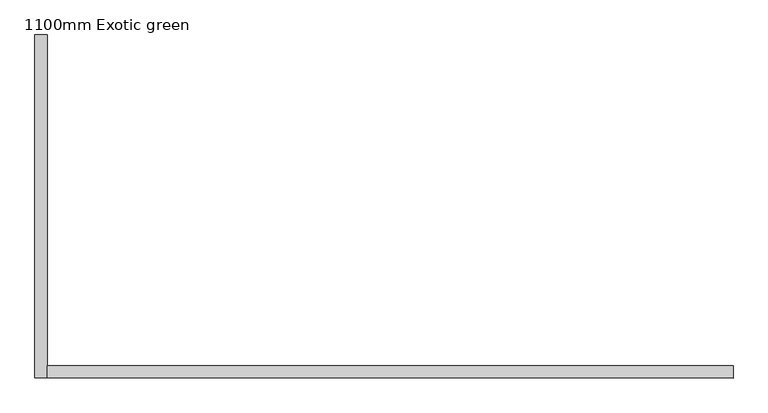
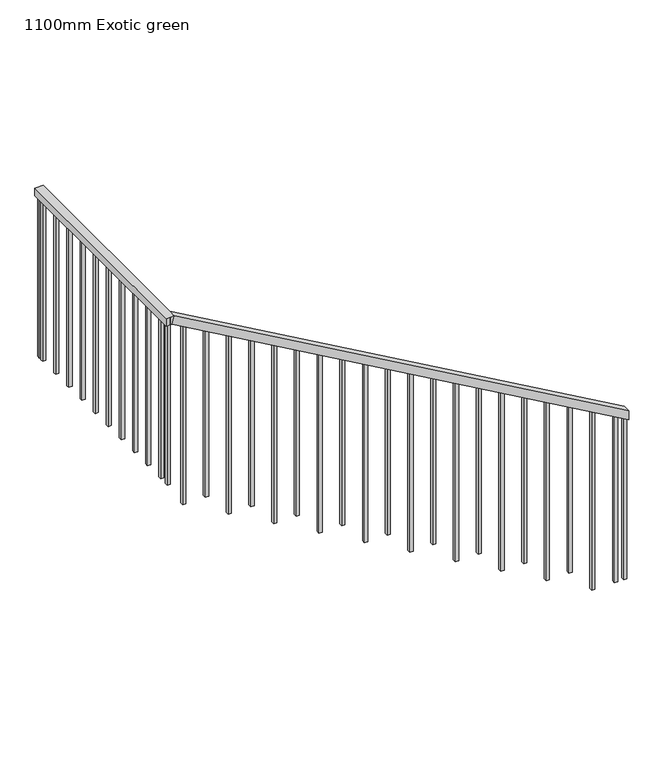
"""IFC4 building model written with IfcOpenShell, lengths in millimetres: railing geometry, 1100mm Exotic green."""

from ifc_helpers import new_model, si_unit, frame, origin, place, context, project, spatial, polyline, outline, extrude, faceted_brep, source, transform, mapped, element, save


def railing_1100mm_exotic_green_17f5a979(model_context):
    return source(origin(), model_context, "Body", "SolidModel", [
        faceted_brep([(67006.5441909, 9164.3716413, 5360.0), (67006.5441909, 9164.3716413, 5302.4124447), (67006.5441909, 9214.3716413, 5302.4124447), (67006.5441909, 9214.3716413, 5360.0), (64206.5441909, 9214.3716413, 6960.0), (64206.5441909, 9164.3716413, 6960.0), (64193.265969, 9214.3716413, 6910.0), (64193.265969, 9164.3716413, 6910.0), (64181.5441909, 9164.3716413, 6960.0), (64181.5441909, 9214.3716413, 6960.0), (64181.5441909, 9214.3716413, 6910.0), (64181.5441909, 9164.3716413, 6910.0)], [[[0, 1, 2, 3]], [[0, 3, 4, 5]], [[3, 2, 6, 4]], [[2, 1, 7, 6]], [[1, 0, 5, 7]], [[8, 9, 10, 11]], [[7, 5, 8, 11]], [[6, 7, 11, 10]], [[4, 6, 10, 9]], [[5, 4, 9, 8]]]),
        faceted_brep([(64156.5441909, 9164.3716413, 6960.0), (64156.5441909, 9164.3716413, 6910.0), (64206.5441909, 9164.3716413, 6910.0), (64206.5441909, 9164.3716413, 6960.0), (64156.5441909, 10564.6640155, 6960.0), (64206.5441909, 10564.6640155, 6960.0), (64206.5441909, 10564.6640155, 6910.0), (64156.5441909, 10564.6640155, 6910.0)], [[[0, 1, 2, 3]], [[4, 5, 6, 7]], [[0, 3, 5, 4]], [[3, 2, 6, 5]], [[2, 1, 7, 6]], [[1, 0, 4, 7]]]),
        extrude(outline(polyline([(64171.5441909, 10509.3716413), (64171.5441909, 10529.3716413), (64191.5441909, 10529.3716413), (64191.5441909, 10509.3716413), (64171.5441909, 10509.3716413)])), frame((0.0, 0.0, 5860.0), z_axis=(0.0, 0.0, 1.0), x_axis=(1.0, 0.0, 0.0)), (0.0, 0.0, 1.0), 1050.0),
        extrude(outline(polyline([(64171.5441909, 10369.3716413), (64171.5441909, 10389.3716413), (64191.5441909, 10389.3716413), (64191.5441909, 10369.3716413), (64171.5441909, 10369.3716413)])), frame((0.0, 0.0, 5860.0), z_axis=(0.0, 0.0, 1.0), x_axis=(1.0, 0.0, 0.0)), (0.0, 0.0, 1.0), 1050.0),
        extrude(outline(polyline([(64171.5441909, 10229.3716413), (64171.5441909, 10249.3716413), (64191.5441909, 10249.3716413), (64191.5441909, 10229.3716413), (64171.5441909, 10229.3716413)])), frame((0.0, 0.0, 5860.0), z_axis=(0.0, 0.0, 1.0), x_axis=(1.0, 0.0, 0.0)), (0.0, 0.0, 1.0), 1050.0),
        extrude(outline(polyline([(64171.5441909, 10089.3716413), (64171.5441909, 10109.3716413), (64191.5441909, 10109.3716413), (64191.5441909, 10089.3716413), (64171.5441909, 10089.3716413)])), frame((0.0, 0.0, 5860.0), z_axis=(0.0, 0.0, 1.0), x_axis=(1.0, 0.0, 0.0)), (0.0, 0.0, 1.0), 1050.0),
        extrude(outline(polyline([(64171.5441909, 9949.3716413), (64171.5441909, 9969.3716413), (64191.5441909, 9969.3716413), (64191.5441909, 9949.3716413), (64171.5441909, 9949.3716413)])), frame((0.0, 0.0, 5860.0), z_axis=(0.0, 0.0, 1.0), x_axis=(1.0, 0.0, 0.0)), (0.0, 0.0, 1.0), 1050.0),
        extrude(outline(polyline([(64171.5441909, 9809.3716413), (64171.5441909, 9829.3716413), (64191.5441909, 9829.3716413), (64191.5441909, 9809.3716413), (64171.5441909, 9809.3716413)])), frame((0.0, 0.0, 5860.0), z_axis=(0.0, 0.0, 1.0), x_axis=(1.0, 0.0, 0.0)), (0.0, 0.0, 1.0), 1050.0),
        extrude(outline(polyline([(64171.5441909, 9669.3716413), (64171.5441909, 9689.3716413), (64191.5441909, 9689.3716413), (64191.5441909, 9669.3716413), (64171.5441909, 9669.3716413)])), frame((0.0, 0.0, 5860.0), z_axis=(0.0, 0.0, 1.0), x_axis=(1.0, 0.0, 0.0)), (0.0, 0.0, 1.0), 1050.0),
        extrude(outline(polyline([(64171.5441909, 9529.3716413), (64171.5441909, 9549.3716413), (64191.5441909, 9549.3716413), (64191.5441909, 9529.3716413), (64171.5441909, 9529.3716413)])), frame((0.0, 0.0, 5860.0), z_axis=(0.0, 0.0, 1.0), x_axis=(1.0, 0.0, 0.0)), (0.0, 0.0, 1.0), 1050.0),
        extrude(outline(polyline([(64171.5441909, 9389.3716413), (64171.5441909, 9409.3716413), (64191.5441909, 9409.3716413), (64191.5441909, 9389.3716413), (64171.5441909, 9389.3716413)])), frame((0.0, 0.0, 5860.0), z_axis=(0.0, 0.0, 1.0), x_axis=(1.0, 0.0, 0.0)), (0.0, 0.0, 1.0), 1050.0),
        extrude(outline(polyline([(64171.5441909, 9249.3716413), (64171.5441909, 9269.3716413), (64191.5441909, 9269.3716413), (64191.5441909, 9249.3716413), (64171.5441909, 9249.3716413)])), frame((0.0, 0.0, 5860.0), z_axis=(0.0, 0.0, 1.0), x_axis=(1.0, 0.0, 0.0)), (0.0, 0.0, 1.0), 1050.0),
        extrude(outline(polyline([(6864.2857143, 64286.5441909), (6875.7142857, 64266.5441909), (5700.0, 64266.5441909), (5700.0, 64286.5441909), (6864.2857143, 64286.5441909)])), frame((0.0, 9179.3716413, 0.0), z_axis=(0.0, 1.0, 0.0), x_axis=(0.0, 0.0, 1.0)), (0.0, 0.0, 1.0), 20.0),
        extrude(outline(polyline([(6784.2857143, 64426.5441909), (6795.7142857, 64406.5441909), (5700.0, 64406.5441909), (5700.0, 64426.5441909), (6784.2857143, 64426.5441909)])), frame((0.0, 9179.3716413, 0.0), z_axis=(0.0, 1.0, 0.0), x_axis=(0.0, 0.0, 1.0)), (0.0, 0.0, 1.0), 20.0),
        extrude(outline(polyline([(6704.2857143, 64566.5441909), (6715.7142857, 64546.5441909), (5540.0, 64546.5441909), (5540.0, 64566.5441909), (6704.2857143, 64566.5441909)])), frame((0.0, 9179.3716413, 0.0), z_axis=(0.0, 1.0, 0.0), x_axis=(0.0, 0.0, 1.0)), (0.0, 0.0, 1.0), 20.0),
        extrude(outline(polyline([(6624.2857143, 64706.5441909), (6635.7142857, 64686.5441909), (5540.0, 64686.5441909), (5540.0, 64706.5441909), (6624.2857143, 64706.5441909)])), frame((0.0, 9179.3716413, 0.0), z_axis=(0.0, 1.0, 0.0), x_axis=(0.0, 0.0, 1.0)), (0.0, 0.0, 1.0), 20.0),
        extrude(outline(polyline([(6544.2857143, 64846.5441909), (6555.7142857, 64826.5441909), (5380.0, 64826.5441909), (5380.0, 64846.5441909), (6544.2857143, 64846.5441909)])), frame((0.0, 9179.3716413, 0.0), z_axis=(0.0, 1.0, 0.0), x_axis=(0.0, 0.0, 1.0)), (0.0, 0.0, 1.0), 20.0),
        extrude(outline(polyline([(6464.2857143, 64986.5441909), (6475.7142857, 64966.5441909), (5380.0, 64966.5441909), (5380.0, 64986.5441909), (6464.2857143, 64986.5441909)])), frame((0.0, 9179.3716413, 0.0), z_axis=(0.0, 1.0, 0.0), x_axis=(0.0, 0.0, 1.0)), (0.0, 0.0, 1.0), 20.0),
        extrude(outline(polyline([(6384.2857143, 65126.5441909), (6395.7142857, 65106.5441909), (5220.0, 65106.5441909), (5220.0, 65126.5441909), (6384.2857143, 65126.5441909)])), frame((0.0, 9179.3716413, 0.0), z_axis=(0.0, 1.0, 0.0), x_axis=(0.0, 0.0, 1.0)), (0.0, 0.0, 1.0), 20.0),
        extrude(outline(polyline([(6304.2857143, 65266.5441909), (6315.7142857, 65246.5441909), (5220.0, 65246.5441909), (5220.0, 65266.5441909), (6304.2857143, 65266.5441909)])), frame((0.0, 9179.3716413, 0.0), z_axis=(0.0, 1.0, 0.0), x_axis=(0.0, 0.0, 1.0)), (0.0, 0.0, 1.0), 20.0),
        extrude(outline(polyline([(6224.2857143, 65406.5441909), (6235.7142857, 65386.5441909), (5060.0, 65386.5441909), (5060.0, 65406.5441909), (6224.2857143, 65406.5441909)])), frame((0.0, 9179.3716413, 0.0), z_axis=(0.0, 1.0, 0.0), x_axis=(0.0, 0.0, 1.0)), (0.0, 0.0, 1.0), 20.0),
        extrude(outline(polyline([(6144.2857143, 65546.5441909), (6155.7142857, 65526.5441909), (5060.0, 65526.5441909), (5060.0, 65546.5441909), (6144.2857143, 65546.5441909)])), frame((0.0, 9179.3716413, 0.0), z_axis=(0.0, 1.0, 0.0), x_axis=(0.0, 0.0, 1.0)), (0.0, 0.0, 1.0), 20.0),
        extrude(outline(polyline([(6064.2857143, 65686.5441909), (6075.7142857, 65666.5441909), (4900.0, 65666.5441909), (4900.0, 65686.5441909), (6064.2857143, 65686.5441909)])), frame((0.0, 9179.3716413, 0.0), z_axis=(0.0, 1.0, 0.0), x_axis=(0.0, 0.0, 1.0)), (0.0, 0.0, 1.0), 20.0),
        extrude(outline(polyline([(5984.2857143, 65826.5441909), (5995.7142857, 65806.5441909), (4900.0, 65806.5441909), (4900.0, 65826.5441909), (5984.2857143, 65826.5441909)])), frame((0.0, 9179.3716413, 0.0), z_axis=(0.0, 1.0, 0.0), x_axis=(0.0, 0.0, 1.0)), (0.0, 0.0, 1.0), 20.0),
        extrude(outline(polyline([(5904.2857143, 65966.5441909), (5915.7142857, 65946.5441909), (4740.0, 65946.5441909), (4740.0, 65966.5441909), (5904.2857143, 65966.5441909)])), frame((0.0, 9179.3716413, 0.0), z_axis=(0.0, 1.0, 0.0), x_axis=(0.0, 0.0, 1.0)), (0.0, 0.0, 1.0), 20.0),
        extrude(outline(polyline([(5824.2857143, 66106.5441909), (5835.7142857, 66086.5441909), (4740.0, 66086.5441909), (4740.0, 66106.5441909), (5824.2857143, 66106.5441909)])), frame((0.0, 9179.3716413, 0.0), z_axis=(0.0, 1.0, 0.0), x_axis=(0.0, 0.0, 1.0)), (0.0, 0.0, 1.0), 20.0),
        extrude(outline(polyline([(5744.2857143, 66246.5441909), (5755.7142857, 66226.5441909), (4580.0, 66226.5441909), (4580.0, 66246.5441909), (5744.2857143, 66246.5441909)])), frame((0.0, 9179.3716413, 0.0), z_axis=(0.0, 1.0, 0.0), x_axis=(0.0, 0.0, 1.0)), (0.0, 0.0, 1.0), 20.0),
        extrude(outline(polyline([(5664.2857143, 66386.5441909), (5675.7142857, 66366.5441909), (4580.0, 66366.5441909), (4580.0, 66386.5441909), (5664.2857143, 66386.5441909)])), frame((0.0, 9179.3716413, 0.0), z_axis=(0.0, 1.0, 0.0), x_axis=(0.0, 0.0, 1.0)), (0.0, 0.0, 1.0), 20.0),
        extrude(outline(polyline([(5584.2857143, 66526.5441909), (5595.7142857, 66506.5441909), (4420.0, 66506.5441909), (4420.0, 66526.5441909), (5584.2857143, 66526.5441909)])), frame((0.0, 9179.3716413, 0.0), z_axis=(0.0, 1.0, 0.0), x_axis=(0.0, 0.0, 1.0)), (0.0, 0.0, 1.0), 20.0),
        extrude(outline(polyline([(5504.2857143, 66666.5441909), (5515.7142857, 66646.5441909), (4420.0, 66646.5441909), (4420.0, 66666.5441909), (5504.2857143, 66666.5441909)])), frame((0.0, 9179.3716413, 0.0), z_axis=(0.0, 1.0, 0.0), x_axis=(0.0, 0.0, 1.0)), (0.0, 0.0, 1.0), 20.0),
        extrude(outline(polyline([(5424.2857143, 66806.5441909), (5435.7142857, 66786.5441909), (4260.0, 66786.5441909), (4260.0, 66806.5441909), (5424.2857143, 66806.5441909)])), frame((0.0, 9179.3716413, 0.0), z_axis=(0.0, 1.0, 0.0), x_axis=(0.0, 0.0, 1.0)), (0.0, 0.0, 1.0), 20.0),
        extrude(outline(polyline([(5344.2857143, 66946.5441909), (5355.7142857, 66926.5441909), (4260.0, 66926.5441909), (4260.0, 66946.5441909), (5344.2857143, 66946.5441909)])), frame((0.0, 9179.3716413, 0.0), z_axis=(0.0, 1.0, 0.0), x_axis=(0.0, 0.0, 1.0)), (0.0, 0.0, 1.0), 20.0),
        extrude(outline(polyline([(64191.5441909, 9179.3716413), (64171.5441909, 9179.3716413), (64171.5441909, 9199.3716413), (64191.5441909, 9199.3716413), (64191.5441909, 9179.3716413)])), frame((0.0, 0.0, 5860.0), z_axis=(0.0, 0.0, 1.0), x_axis=(1.0, 0.0, 0.0)), (0.0, 0.0, 1.0), 1050.0),
        extrude(outline(polyline([(64171.5441909, 10542.1640155), (64171.5441909, 10562.1640155), (64191.5441909, 10562.1640155), (64191.5441909, 10542.1640155), (64171.5441909, 10542.1640155)])), frame((0.0, 0.0, 5860.0), z_axis=(0.0, 0.0, 1.0), x_axis=(1.0, 0.0, 0.0)), (0.0, 0.0, 1.0), 1050.0),
        extrude(outline(polyline([(5311.4285714, 67004.0441909), (5322.8571429, 66984.0441909), (4260.0, 66984.0441909), (4260.0, 67004.0441909), (5311.4285714, 67004.0441909)])), frame((0.0, 9179.3716413, 0.0), z_axis=(0.0, 1.0, 0.0), x_axis=(0.0, 0.0, 1.0)), (0.0, 0.0, 1.0), 20.0),
    ])


if __name__ == "__main__":
    model = new_model("IFC4")
    model_context = context("Model", 3, world=origin())
    ifc_project = project(units=[si_unit("LENGTHUNIT", "METRE", prefix="MILLI")], contexts=[model_context])
    site = spatial("IfcSite", under=ifc_project)
    building = spatial("IfcBuilding", under=site)
    placement = place(None, origin())
    railing_1100mm_exotic_green_shape = railing_1100mm_exotic_green_17f5a979(model_context)
    element("IfcRailing", 1, ObjectType="1100mm Exotic green", at=placement, inside=building, context=model_context, shape_type="MappedRepresentation", body=[
        mapped(railing_1100mm_exotic_green_shape, transform((0.0, 0.0, 0.0), x_axis=(1.0, 0.0, 0.0), y_axis=(0.0, 1.0, 0.0), z_axis=(0.0, 0.0, 1.0))),
    ])
    save(model, "model.ifc")
